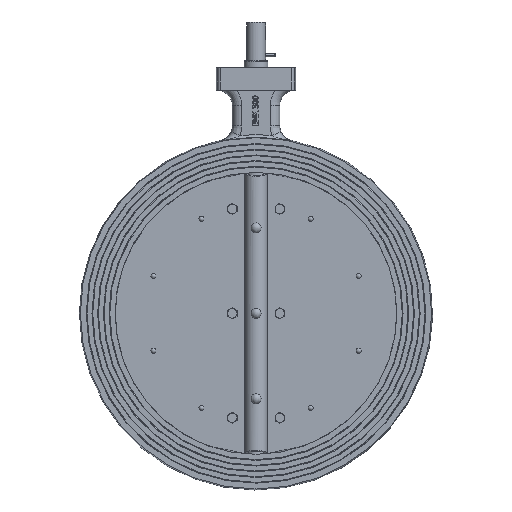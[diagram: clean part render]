
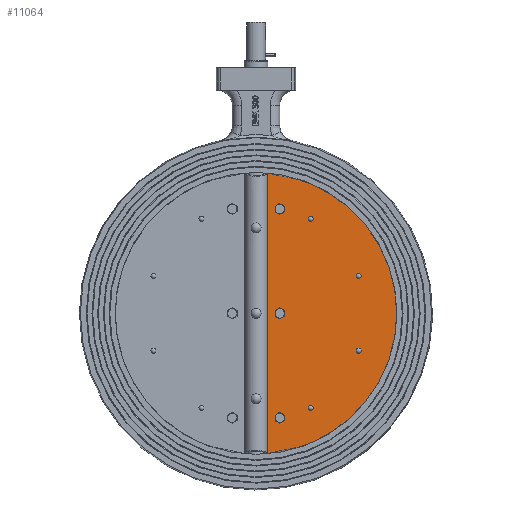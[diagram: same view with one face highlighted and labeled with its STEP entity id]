
A CAD part, top view. The second image highlights one B-rep face of the part: STEP entity #11064.
In plain terms, the highlighted planar face has unit normal (0, 0, 1).
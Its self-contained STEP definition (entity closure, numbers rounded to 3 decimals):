
#1597=CARTESIAN_POINT('',(57.5,-96.993,1.5));
#1598=VERTEX_POINT('',#1597);
#1599=CARTESIAN_POINT('',(57.5,-99.593,1.5));
#1600=DIRECTION('',(0.0,0.0,-1.0));
#1601=DIRECTION('',(0.0,1.0,0.0));
#1602=AXIS2_PLACEMENT_3D('',#1599,#1600,#1601);
#1603=CIRCLE('',#1602,2.6);
#1604=EDGE_CURVE('',#1598,#1598,#1603,.T.);
#3571=CARTESIAN_POINT('',(57.5,96.993,1.5));
#3572=VERTEX_POINT('',#3571);
#3573=CARTESIAN_POINT('',(57.5,99.593,1.5));
#3574=DIRECTION('',(0.0,0.0,-1.0));
#3575=DIRECTION('',(0.0,1.0,0.0));
#3576=AXIS2_PLACEMENT_3D('',#3573,#3574,#3575);
#3577=CIRCLE('',#3576,2.6);
#3578=EDGE_CURVE('',#3572,#3572,#3577,.T.);
#3617=CARTESIAN_POINT('',(108.065,36.732,1.5));
#3618=VERTEX_POINT('',#3617);
#3619=CARTESIAN_POINT('',(108.065,39.332,1.5));
#3620=DIRECTION('',(0.0,0.0,-1.0));
#3621=DIRECTION('',(0.0,1.0,0.0));
#3622=AXIS2_PLACEMENT_3D('',#3619,#3620,#3621);
#3623=CIRCLE('',#3622,2.6);
#3624=EDGE_CURVE('',#3618,#3618,#3623,.T.);
#3663=CARTESIAN_POINT('',(108.065,-41.932,1.5));
#3664=VERTEX_POINT('',#3663);
#3665=CARTESIAN_POINT('',(108.065,-39.332,1.5));
#3666=DIRECTION('',(0.0,0.0,-1.0));
#3667=DIRECTION('',(0.0,1.0,0.0));
#3668=AXIS2_PLACEMENT_3D('',#3665,#3666,#3667);
#3669=CIRCLE('',#3668,2.6);
#3670=EDGE_CURVE('',#3664,#3664,#3669,.T.);
#8878=CARTESIAN_POINT('',(25.,-105.56,1.5));
#8879=VERTEX_POINT('',#8878);
#8880=CARTESIAN_POINT('',(25.,-110.,1.5));
#8881=DIRECTION('',(0.0,0.0,-1.0));
#8882=DIRECTION('',(0.0,1.0,0.0));
#8883=AXIS2_PLACEMENT_3D('',#8880,#8881,#8882);
#8884=CIRCLE('',#8883,4.44);
#8885=EDGE_CURVE('',#8879,#8879,#8884,.T.);
#9426=CARTESIAN_POINT('',(25.,4.44,1.5));
#9427=VERTEX_POINT('',#9426);
#9428=CARTESIAN_POINT('',(25.,0.,1.5));
#9429=DIRECTION('',(0.0,0.0,-1.0));
#9430=DIRECTION('',(0.0,1.0,0.0));
#9431=AXIS2_PLACEMENT_3D('',#9428,#9429,#9430);
#9432=CIRCLE('',#9431,4.44);
#9433=EDGE_CURVE('',#9427,#9427,#9432,.T.);
#9974=CARTESIAN_POINT('',(25.,114.44,1.5));
#9975=VERTEX_POINT('',#9974);
#9976=CARTESIAN_POINT('',(25.,110.,1.5));
#9977=DIRECTION('',(0.0,0.0,-1.0));
#9978=DIRECTION('',(0.0,1.0,0.0));
#9979=AXIS2_PLACEMENT_3D('',#9976,#9977,#9978);
#9980=CIRCLE('',#9979,4.44);
#9981=EDGE_CURVE('',#9975,#9975,#9980,.T.);
#10596=CARTESIAN_POINT('',(11.906,147.771,1.5));
#10597=VERTEX_POINT('',#10596);
#10647=CARTESIAN_POINT('',(11.906,-147.771,1.5));
#10648=VERTEX_POINT('',#10647);
#10778=CARTESIAN_POINT('',(0.,0.,1.5));
#10779=DIRECTION('',(0.0,0.0,-1.0));
#10780=DIRECTION('',(0.0,1.0,0.0));
#10781=AXIS2_PLACEMENT_3D('',#10778,#10779,#10780);
#10782=CIRCLE('',#10781,148.25);
#10783=EDGE_CURVE('',#10597,#10648,#10782,.T.);
#10864=CARTESIAN_POINT('',(11.906,147.771,1.5));
#10865=DIRECTION('',(0.0,-1.0,0.0));
#10866=VECTOR('',#10865,295.542);
#10867=LINE('',#10864,#10866);
#10868=EDGE_CURVE('',#10597,#10648,#10867,.T.);
#11034=CARTESIAN_POINT('',(0.,0.,1.5));
#11035=DIRECTION('',(0.0,0.0,-1.0));
#11036=DIRECTION('',(0.0,1.0,0.0));
#11037=AXIS2_PLACEMENT_3D('',#11034,#11035,#11036);
#11038=PLANE('',#11037);
#11039=ORIENTED_EDGE('',*,*,#10868,.T.);
#11040=ORIENTED_EDGE('',*,*,#10783,.F.);
#11041=EDGE_LOOP('',(#11039,#11040));
#11042=FACE_OUTER_BOUND('',#11041,.T.);
#11043=ORIENTED_EDGE('',*,*,#1604,.T.);
#11044=EDGE_LOOP('',(#11043));
#11045=FACE_BOUND('',#11044,.T.);
#11046=ORIENTED_EDGE('',*,*,#3578,.T.);
#11047=EDGE_LOOP('',(#11046));
#11048=FACE_BOUND('',#11047,.T.);
#11049=ORIENTED_EDGE('',*,*,#3624,.T.);
#11050=EDGE_LOOP('',(#11049));
#11051=FACE_BOUND('',#11050,.T.);
#11052=ORIENTED_EDGE('',*,*,#3670,.T.);
#11053=EDGE_LOOP('',(#11052));
#11054=FACE_BOUND('',#11053,.T.);
#11055=ORIENTED_EDGE('',*,*,#8885,.T.);
#11056=EDGE_LOOP('',(#11055));
#11057=FACE_BOUND('',#11056,.T.);
#11058=ORIENTED_EDGE('',*,*,#9433,.T.);
#11059=EDGE_LOOP('',(#11058));
#11060=FACE_BOUND('',#11059,.T.);
#11061=ORIENTED_EDGE('',*,*,#9981,.T.);
#11062=EDGE_LOOP('',(#11061));
#11063=FACE_BOUND('',#11062,.T.);
#11064=ADVANCED_FACE('',(#11042,#11045,#11048,#11051,#11054,#11057,#11060,#11063),#11038,.F.);
